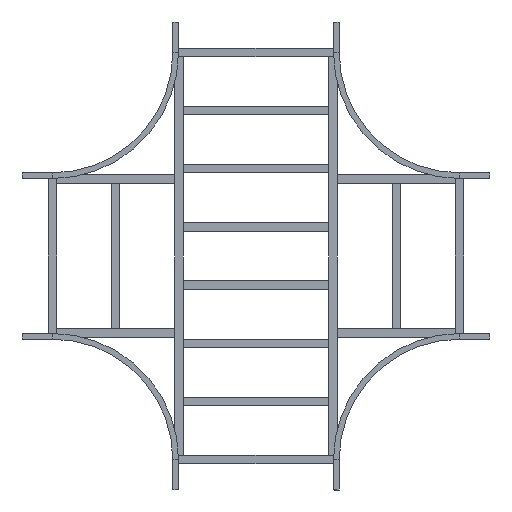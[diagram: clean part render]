
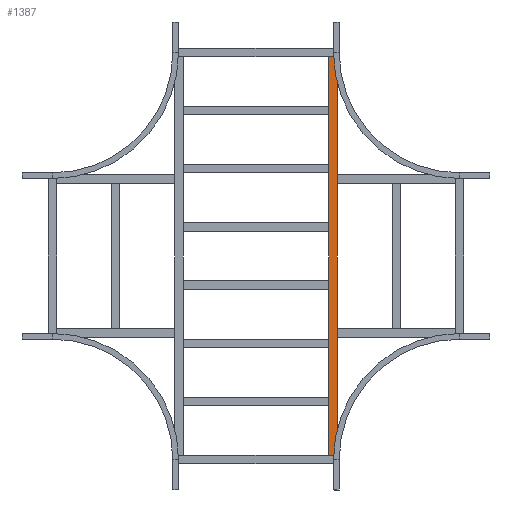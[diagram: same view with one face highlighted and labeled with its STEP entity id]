
A CAD part, front view. The second image highlights one B-rep face of the part: STEP entity #1387.
In plain terms, the highlighted planar face has unit normal (0, -1, 0).
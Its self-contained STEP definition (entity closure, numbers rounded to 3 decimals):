
#6 = CARTESIAN_POINT ( 'NONE',  ( 979.75, 0., -20.25 ) ) ;
#82 = CARTESIAN_POINT ( 'NONE',  ( 979.75, 0., 20.25 ) ) ;
#124 = DIRECTION ( 'NONE',  ( -1., 0., 0. ) ) ;
#360 = ORIENTED_EDGE ( 'NONE', *, *, #1121, .T. ) ;
#410 = ORIENTED_EDGE ( 'NONE', *, *, #2111, .T. ) ;
#504 = CARTESIAN_POINT ( 'NONE',  ( 979.75, 0., 20.25 ) ) ;
#517 = LINE ( 'NONE', #504, #1540 ) ;
#525 = LINE ( 'NONE', #1187, #799 ) ;
#562 = VERTEX_POINT ( 'NONE', #6 ) ;
#608 = CARTESIAN_POINT ( 'NONE',  ( -979.75, 0., -20.25 ) ) ;
#799 = VECTOR ( 'NONE', #1173, 1000. ) ;
#805 = DIRECTION ( 'NONE',  ( 0., 0., -1. ) ) ;
#854 = EDGE_CURVE ( 'NONE', #562, #2602, #525, .T. ) ;
#857 = FACE_OUTER_BOUND ( 'NONE', #1140, .T. ) ;
#1121 = EDGE_CURVE ( 'NONE', #1295, #2458, #1795, .T. ) ;
#1140 = EDGE_LOOP ( 'NONE', ( #410, #1331, #1606, #360 ) ) ;
#1141 = EDGE_CURVE ( 'NONE', #1295, #562, #517, .T. ) ;
#1173 = DIRECTION ( 'NONE',  ( -1., 0., 0. ) ) ;
#1187 = CARTESIAN_POINT ( 'NONE',  ( 979.75, 0., -20.25 ) ) ;
#1295 = VERTEX_POINT ( 'NONE', #2479 ) ;
#1331 = ORIENTED_EDGE ( 'NONE', *, *, #854, .F. ) ;
#1387 = ADVANCED_FACE ( 'NONE', ( #857 ), #1719, .F. ) ;
#1466 = DIRECTION ( 'NONE',  ( 0., 1., 0. ) ) ;
#1540 = VECTOR ( 'NONE', #2176, 1000. ) ;
#1587 = AXIS2_PLACEMENT_3D ( 'NONE', #1692, #1466, #1942 ) ;
#1606 = ORIENTED_EDGE ( 'NONE', *, *, #1141, .F. ) ;
#1634 = VECTOR ( 'NONE', #124, 1000. ) ;
#1692 = CARTESIAN_POINT ( 'NONE',  ( 979.75, 0., 20.25 ) ) ;
#1719 = PLANE ( 'NONE',  #1587 ) ;
#1795 = LINE ( 'NONE', #82, #1634 ) ;
#1942 = DIRECTION ( 'NONE',  ( 0., 0., 1. ) ) ;
#2050 = LINE ( 'NONE', #2062, #2171 ) ;
#2062 = CARTESIAN_POINT ( 'NONE',  ( -979.75, 0., 20.25 ) ) ;
#2111 = EDGE_CURVE ( 'NONE', #2458, #2602, #2050, .T. ) ;
#2171 = VECTOR ( 'NONE', #805, 1000. ) ;
#2176 = DIRECTION ( 'NONE',  ( 0., 0., -1. ) ) ;
#2301 = CARTESIAN_POINT ( 'NONE',  ( -979.75, 0., 20.25 ) ) ;
#2458 = VERTEX_POINT ( 'NONE', #2301 ) ;
#2479 = CARTESIAN_POINT ( 'NONE',  ( 979.75, 0., 20.25 ) ) ;
#2602 = VERTEX_POINT ( 'NONE', #608 ) ;
